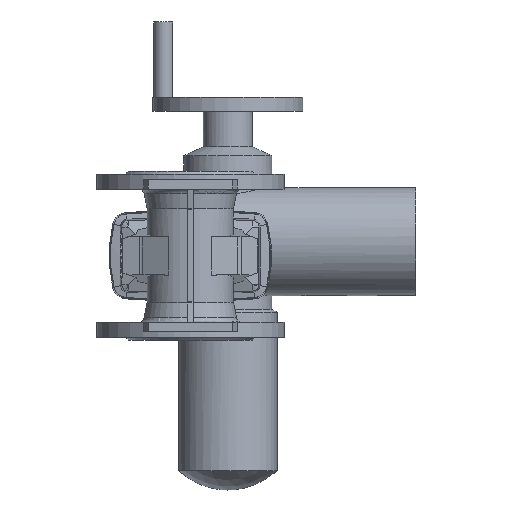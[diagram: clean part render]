
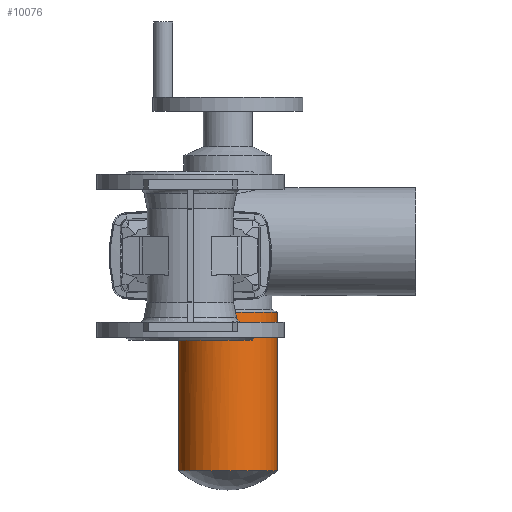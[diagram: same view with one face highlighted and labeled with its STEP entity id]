
A CAD part, front view. The second image highlights one B-rep face of the part: STEP entity #10076.
In plain terms, the highlighted cylindrical face has radius 52.5 mm (diameter 105 mm), a full revolution.
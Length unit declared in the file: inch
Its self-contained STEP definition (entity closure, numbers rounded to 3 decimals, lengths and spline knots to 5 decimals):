
#10 = B_SPLINE_CURVE_WITH_KNOTS ( 'NONE', 3,
 ( #2108, #2109, #2115, #2116, #2117, #2118, #2119, #2120, #2121, #2122, #2123, #2124, #2125, #2126, #2127, #2128, #2129, #2130, #2131, #2132, #2133, #2134, #2135, #2136, #2137, #2138, #2139, #2140, #2141, #2142, #2143, #2144, #2145, #2146, #2147, #2148, #2149, #2150, #2151, #2152, #2153, #2154, #2155, #2156, #2157, #2158, #2159, #2160, #2161, #2162 ),
 .UNSPECIFIED., .F., .F.,
 ( 4, 2, 2, 2, 2, 2, 2, 2, 2, 2, 2, 2, 2, 2, 2, 2, 2, 2, 2, 2, 2, 2, 2, 2, 4 ),
 ( 0.13161, 0.13526, 0.13891, 0.14621, 0.14987, 0.15352, 0.16082, 0.16447, 0.16812, 0.17543, 0.17908, 0.1809, 0.18273, 0.19003, 0.19734, 0.20464, 0.21194, 0.21377, 0.2156, 0.21925, 0.22655, 0.2302, 0.23385, 0.24116, 0.24846 ),
 .UNSPECIFIED. ) ;
#400 = ORIENTED_EDGE ( 'NONE', *, *, #5422, .T. ) ;
#427 = ORIENTED_EDGE ( 'NONE', *, *, #5364, .T. ) ;
#428 = ORIENTED_EDGE ( 'NONE', *, *, #5357, .F. ) ;
#555 = AXIS2_PLACEMENT_3D ( 'NONE', #1310, #1313, #1308 ) ;
#957 = VERTEX_POINT ( 'NONE', #9574 ) ;
#961 = VERTEX_POINT ( 'NONE', #9578 ) ;
#1234 = EDGE_LOOP ( 'NONE', ( #400 ) ) ;
#1248 = EDGE_LOOP ( 'NONE', ( #428, #427 ) ) ;
#1308 = DIRECTION ( 'NONE',  ( 1., 0., 0. ) ) ;
#1310 = CARTESIAN_POINT ( 'NONE',  ( 1.5748, 12.79528, 0.59055 ) ) ;
#1313 = DIRECTION ( 'NONE',  ( 0., 0., 1. ) ) ;
#1681 = CARTESIAN_POINT ( 'NONE',  ( 3.64173, 12.79528, -9.01387 ) ) ;
#2096 = CARTESIAN_POINT ( 'NONE',  ( 1.5748, 12.79528, -2.36787 ) ) ;
#2097 = DIRECTION ( 'NONE',  ( 0., 0., 1. ) ) ;
#2098 = DIRECTION ( 'NONE',  ( 1., 0., 0. ) ) ;
#2108 = CARTESIAN_POINT ( 'NONE',  ( 0.66926, 10.93727, -2.36787 ) ) ;
#2109 = CARTESIAN_POINT ( 'NONE',  ( 0.62708, 10.95782, -2.37979 ) ) ;
#2115 = CARTESIAN_POINT ( 'NONE',  ( 0.58486, 10.98021, -2.39049 ) ) ;
#2116 = CARTESIAN_POINT ( 'NONE',  ( 0.5023, 11.02774, -2.40919 ) ) ;
#2117 = CARTESIAN_POINT ( 'NONE',  ( 0.46185, 11.05292, -2.41723 ) ) ;
#2118 = CARTESIAN_POINT ( 'NONE',  ( 0.34306, 11.13271, -2.43792 ) ) ;
#2119 = CARTESIAN_POINT ( 'NONE',  ( 0.26727, 11.19155, -2.44714 ) ) ;
#2120 = CARTESIAN_POINT ( 'NONE',  ( 0.15912, 11.2885, -2.45575 ) ) ;
#2121 = CARTESIAN_POINT ( 'NONE',  ( 0.1239, 11.32237, -2.45774 ) ) ;
#2122 = CARTESIAN_POINT ( 'NONE',  ( 0.05644, 11.39202, -2.46021 ) ) ;
#2123 = CARTESIAN_POINT ( 'NONE',  ( 0.02406, 11.4279, -2.46071 ) ) ;
#2124 = CARTESIAN_POINT ( 'NONE',  ( -0.06907, 11.53862, -2.46044 ) ) ;
#2125 = CARTESIAN_POINT ( 'NONE',  ( -0.12584, 11.61655, -2.45795 ) ) ;
#2126 = CARTESIAN_POINT ( 'NONE',  ( -0.20293, 11.73972, -2.45238 ) ) ;
#2127 = CARTESIAN_POINT ( 'NONE',  ( -0.22735, 11.78197, -2.45021 ) ) ;
#2128 = CARTESIAN_POINT ( 'NONE',  ( -0.27285, 11.86753, -2.44556 ) ) ;
#2129 = CARTESIAN_POINT ( 'NONE',  ( -0.29399, 11.9109, -2.44308 ) ) ;
#2130 = CARTESIAN_POINT ( 'NONE',  ( -0.35268, 12.04278, -2.43554 ) ) ;
#2131 = CARTESIAN_POINT ( 'NONE',  ( -0.38554, 12.13304, -2.43039 ) ) ;
#2132 = CARTESIAN_POINT ( 'NONE',  ( -0.42538, 12.27202, -2.42362 ) ) ;
#2133 = CARTESIAN_POINT ( 'NONE',  ( -0.43708, 12.31895, -2.42152 ) ) ;
#2134 = CARTESIAN_POINT ( 'NONE',  ( -0.4522, 12.39026, -2.41873 ) ) ;
#2135 = CARTESIAN_POINT ( 'NONE',  ( -0.45684, 12.41419, -2.41785 ) ) ;
#2136 = CARTESIAN_POINT ( 'NONE',  ( -0.46522, 12.46197, -2.41626 ) ) ;
#2137 = CARTESIAN_POINT ( 'NONE',  ( -0.46898, 12.48587, -2.41553 ) ) ;
#2138 = CARTESIAN_POINT ( 'NONE',  ( -0.48566, 12.60545, -2.41227 ) ) ;
#2139 = CARTESIAN_POINT ( 'NONE',  ( -0.49222, 12.70132, -2.4109 ) ) ;
#2140 = CARTESIAN_POINT ( 'NONE',  ( -0.49203, 12.89344, -2.41094 ) ) ;
#2141 = CARTESIAN_POINT ( 'NONE',  ( -0.48526, 12.98972, -2.41235 ) ) ;
#2142 = CARTESIAN_POINT ( 'NONE',  ( -0.45785, 13.1826, -2.4177 ) ) ;
#2143 = CARTESIAN_POINT ( 'NONE',  ( -0.43753, 13.27689, -2.42157 ) ) ;
#2144 = CARTESIAN_POINT ( 'NONE',  ( -0.3842, 13.4614, -2.4306 ) ) ;
#2145 = CARTESIAN_POINT ( 'NONE',  ( -0.35119, 13.55162, -2.43576 ) ) ;
#2146 = CARTESIAN_POINT ( 'NONE',  ( -0.30185, 13.66185, -2.44207 ) ) ;
#2147 = CARTESIAN_POINT ( 'NONE',  ( -0.29157, 13.68377, -2.44332 ) ) ;
#2148 = CARTESIAN_POINT ( 'NONE',  ( -0.2702, 13.72735, -2.44577 ) ) ;
#2149 = CARTESIAN_POINT ( 'NONE',  ( -0.25908, 13.74903, -2.44698 ) ) ;
#2150 = CARTESIAN_POINT ( 'NONE',  ( -0.22475, 13.81319, -2.45045 ) ) ;
#2151 = CARTESIAN_POINT ( 'NONE',  ( -0.20049, 13.85493, -2.45258 ) ) ;
#2152 = CARTESIAN_POINT ( 'NONE',  ( -0.12362, 13.97715, -2.45806 ) ) ;
#2153 = CARTESIAN_POINT ( 'NONE',  ( -0.06698, 14.05464, -2.4605 ) ) ;
#2154 = CARTESIAN_POINT ( 'NONE',  ( 0.02606, 14.16491, -2.46069 ) ) ;
#2155 = CARTESIAN_POINT ( 'NONE',  ( 0.05842, 14.20067, -2.46017 ) ) ;
#2156 = CARTESIAN_POINT ( 'NONE',  ( 0.12592, 14.27016, -2.45764 ) ) ;
#2157 = CARTESIAN_POINT ( 'NONE',  ( 0.16121, 14.30402, -2.45561 ) ) ;
#2158 = CARTESIAN_POINT ( 'NONE',  ( 0.26942, 14.40074, -2.44691 ) ) ;
#2159 = CARTESIAN_POINT ( 'NONE',  ( 0.34504, 14.45927, -2.43763 ) ) ;
#2160 = CARTESIAN_POINT ( 'NONE',  ( 0.50254, 14.56487, -2.41009 ) ) ;
#2161 = CARTESIAN_POINT ( 'NONE',  ( 0.58444, 14.61194, -2.39184 ) ) ;
#2162 = CARTESIAN_POINT ( 'NONE',  ( 0.66926, 14.65328, -2.36787 ) ) ;
#3215 = AXIS2_PLACEMENT_3D ( 'NONE', #2096, #2097, #2098 ) ;
#3232 = AXIS2_PLACEMENT_3D ( 'NONE', #4148, #4149, #4150 ) ;
#4148 = CARTESIAN_POINT ( 'NONE',  ( 1.5748, 12.79528, -9.01387 ) ) ;
#4149 = DIRECTION ( 'NONE',  ( 0., 0., 1. ) ) ;
#4150 = DIRECTION ( 'NONE',  ( 1., 0., 0. ) ) ;
#5357 = EDGE_CURVE ( 'NONE', #957, #961, #6667, .T. ) ;
#5364 = EDGE_CURVE ( 'NONE', #957, #961, #10, .T. ) ;
#5422 = EDGE_CURVE ( 'NONE', #7520, #7520, #6745, .T. ) ;
#6667 = CIRCLE ( 'NONE', #3215, 2.06693 ) ;
#6745 = CIRCLE ( 'NONE', #3232, 2.06693 ) ;
#7322 = FACE_OUTER_BOUND ( 'NONE', #1234, .T. ) ;
#7330 = FACE_OUTER_BOUND ( 'NONE', #1248, .T. ) ;
#7332 = CYLINDRICAL_SURFACE ( 'NONE', #555, 2.06693 ) ;
#7520 = VERTEX_POINT ( 'NONE', #1681 ) ;
#9574 = CARTESIAN_POINT ( 'NONE',  ( 0.66926, 10.93727, -2.36787 ) ) ;
#9578 = CARTESIAN_POINT ( 'NONE',  ( 0.66926, 14.65328, -2.36787 ) ) ;
#10076 = ADVANCED_FACE ( 'NONE', ( #7322, #7330 ), #7332, .T. ) ;
